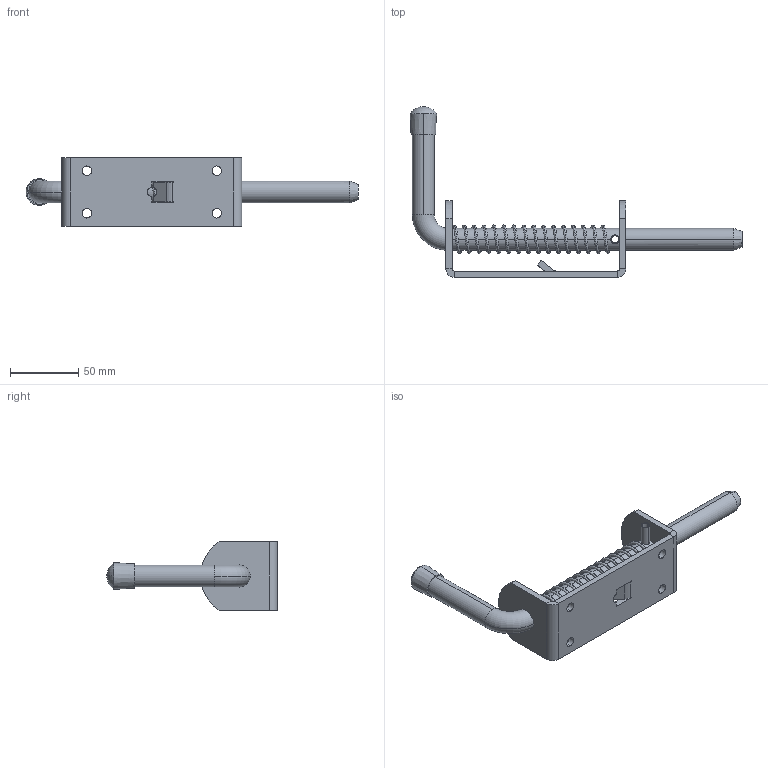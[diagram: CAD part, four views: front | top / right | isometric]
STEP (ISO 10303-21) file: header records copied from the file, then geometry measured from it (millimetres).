
FILE_DESCRIPTION (( 'STEP AP203' ), '1' );
FILE_NAME ('9481L.STEP', '2020-10-19T23:18:44', ( '' ), ( '' ), 'SwSTEP 2.0', 'SolidWorks 2018', '' );
FILE_SCHEMA (( 'CONFIG_CONTROL_DESIGN' ));
Length unit declared in the file: millimetre
Products named in the file (5): 9481L-HANDLE; 9481L-PIN; 9481L-SPRING; 9481L-BASE; 9481L
Assembly tree (4 placements, depth 2):
  9481L
    9481L-BASE
    9481L-HANDLE
    9481L-SPRING
    9481L-PIN
Bounding box: 242.75 x 124.7 x 50 mm (x, y, z)
Volume: 115869.5 mm3; surface area: 49342.1 mm2
Topology: 4 solids, 4 shells, 86 faces, 208 edges, 129 vertices
Faces by surface type: plane 40, cylinder 36, cone 4, torus 2, sphere 2, bspline 2
Entity records: 10353 total; most frequent: CARTESIAN_POINT 7742, DIRECTION 472, ORIENTED_EDGE 416, EDGE_CURVE 208, AXIS2_PLACEMENT_3D 179, VERTEX_POINT 129, LINE 114, VECTOR 114
